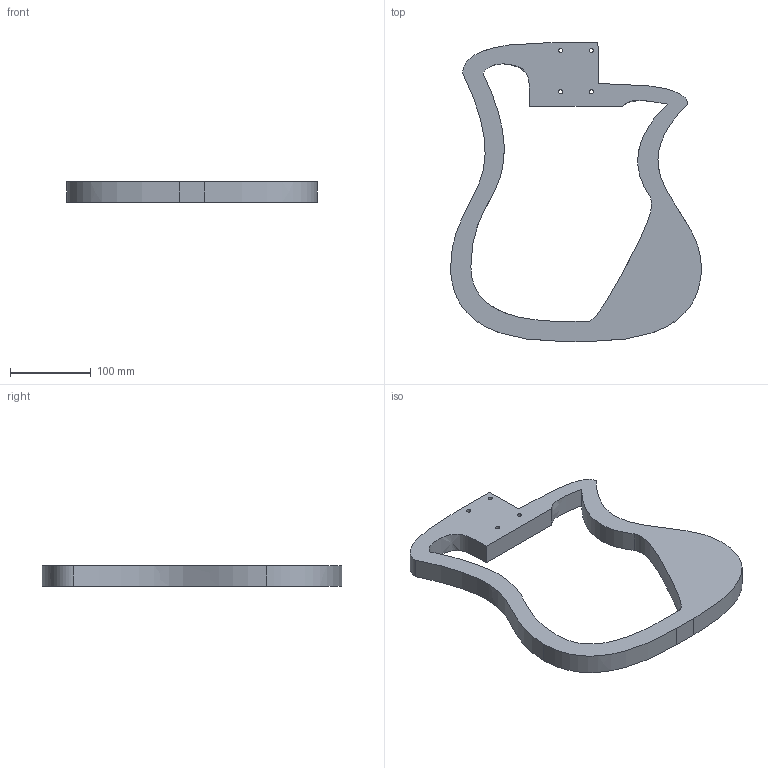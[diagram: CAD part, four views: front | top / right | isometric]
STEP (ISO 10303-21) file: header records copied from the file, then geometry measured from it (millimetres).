
FILE_DESCRIPTION(('FreeCAD Model'),'2;1');
FILE_NAME('Open CASCADE Shape Model','2024-03-17T22:26:15',('Author'),( ''),'Open CASCADE STEP processor 7.6','FreeCAD','Unknown');
FILE_SCHEMA(('AUTOMOTIVE_DESIGN { 1 0 10303 214 1 1 1 1 }'));
Length unit declared in the file: millimetre
Products named in the file (1): Body_Wood_Laser
Bounding box: 310 x 370 x 25 mm (x, y, z)
Volume: 966821.1 mm3; surface area: 135288.3 mm2
Topology: 1 solids, 1 shells, 23 faces, 63 edges, 42 vertices
Faces by surface type: extrusion 12, plane 7, cylinder 4
Full cylindrical faces by diameter (mm): 5.2 x4
Entity records: 1645 total; most frequent: CARTESIAN_POINT 415, DIRECTION 185, VECTOR 137, ORIENTED_EDGE 126, PCURVE 126, DEFINITIONAL_REPRESENTATION 126, LINE 125, EDGE_CURVE 63
